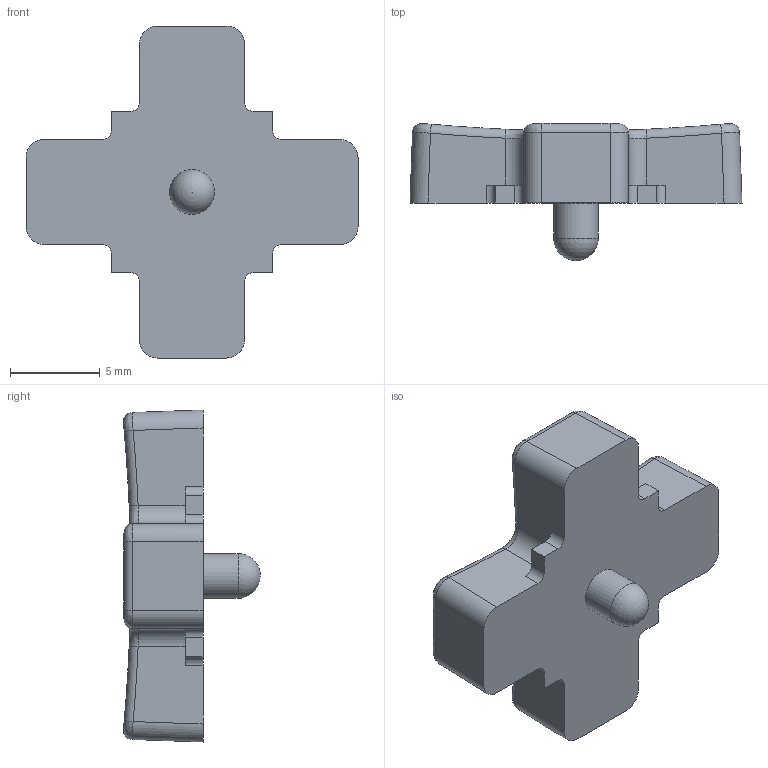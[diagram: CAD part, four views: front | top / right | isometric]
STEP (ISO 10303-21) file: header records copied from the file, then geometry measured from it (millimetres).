
FILE_DESCRIPTION(/* description */ (''),/* implementation_level */ '2;1');
FILE_NAME(/* name */ 'Switch Lite D-Pad.step',/* time_stamp */ '2022-11-01T13:59:39+09:00',/* author */ (''),/* organization */ (''),/* preprocessor_version */ 'ST-DEVELOPER v19.2',/* originating_system */ 'Autodesk Translation Framework v11.17.0.187',/* authorisation */ '');
FILE_SCHEMA (('AUTOMOTIVE_DESIGN { 1 0 10303 214 3 1 1 }'));
Length unit declared in the file: millimetre
Products named in the file (1): Switch Lite D-Pad
Bounding box: 18.5 x 7.63 x 18.5 mm (x, y, z)
Volume: 769.6 mm3; surface area: 687 mm2
Topology: 1 solids, 1 shells, 88 faces, 246 edges, 164 vertices
Faces by surface type: plane 37, cylinder 21, torus 12, bspline 12, sphere 6
Full cylindrical faces by diameter (mm): 2.5 x1
Entity records: 3801 total; most frequent: CARTESIAN_POINT 1462, DIRECTION 503, ORIENTED_EDGE 490, EDGE_CURVE 245, AXIS2_PLACEMENT_3D 205, VERTEX_POINT 164, CIRCLE 120, LINE 93
